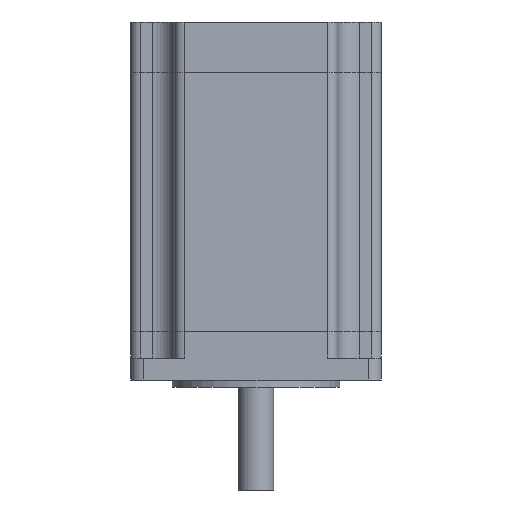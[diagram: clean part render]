
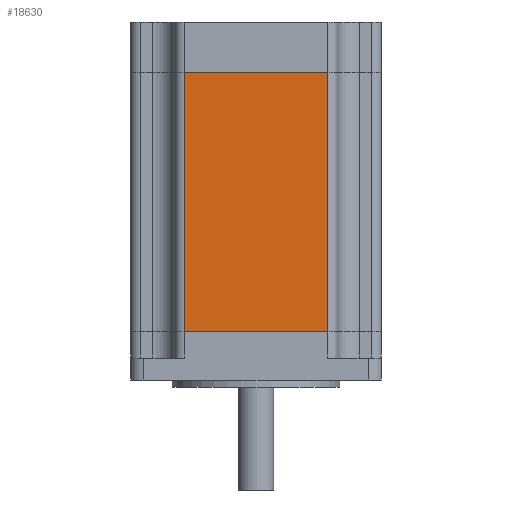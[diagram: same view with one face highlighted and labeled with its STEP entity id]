
A CAD part, front view. The second image highlights one B-rep face of the part: STEP entity #18630.
In plain terms, the highlighted planar face has unit normal (0, -1, 0) as drawn and (-1, 0, 0) by its records, which use the part's own axes.
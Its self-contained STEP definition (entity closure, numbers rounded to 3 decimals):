
#171 = VERTEX_POINT ( 'NONE', #13659 ) ;
#383 = CARTESIAN_POINT ( 'NONE',  ( -28.5, -16.27, 59. ) ) ;
#1127 = VECTOR ( 'NONE', #11758, 1000. ) ;
#1203 = CARTESIAN_POINT ( 'NONE',  ( -28.5, 0., 0. ) ) ;
#1245 = EDGE_CURVE ( 'NONE', #171, #18225, #7882, .T. ) ;
#1393 = EDGE_CURVE ( 'NONE', #15308, #18225, #18488, .T. ) ;
#1878 = PLANE ( 'NONE',  #15064 ) ;
#4386 = LINE ( 'NONE', #16117, #15865 ) ;
#4603 = ORIENTED_EDGE ( 'NONE', *, *, #4767, .F. ) ;
#4767 = EDGE_CURVE ( 'NONE', #18371, #171, #13033, .T. ) ;
#4882 = DIRECTION ( 'NONE',  ( 1., 0., 0. ) ) ;
#5252 = EDGE_CURVE ( 'NONE', #18371, #15308, #4386, .T. ) ;
#5423 = ORIENTED_EDGE ( 'NONE', *, *, #1245, .F. ) ;
#6481 = VECTOR ( 'NONE', #9480, 1000. ) ;
#7882 = LINE ( 'NONE', #383, #6481 ) ;
#8471 = ORIENTED_EDGE ( 'NONE', *, *, #1393, .T. ) ;
#9452 = CARTESIAN_POINT ( 'NONE',  ( -28.5, 16.27, 59. ) ) ;
#9480 = DIRECTION ( 'NONE',  ( 0., 0., -1. ) ) ;
#10284 = ORIENTED_EDGE ( 'NONE', *, *, #5252, .T. ) ;
#11758 = DIRECTION ( 'NONE',  ( 0., -1., 0. ) ) ;
#12221 = EDGE_LOOP ( 'NONE', ( #8471, #5423, #4603, #10284 ) ) ;
#13033 = LINE ( 'NONE', #14775, #1127 ) ;
#13659 = CARTESIAN_POINT ( 'NONE',  ( -28.5, -16.27, 59. ) ) ;
#13815 = CARTESIAN_POINT ( 'NONE',  ( -28.5, 0., 59. ) ) ;
#14482 = VECTOR ( 'NONE', #14780, 1000. ) ;
#14775 = CARTESIAN_POINT ( 'NONE',  ( -28.5, 0., 59. ) ) ;
#14780 = DIRECTION ( 'NONE',  ( 0., -1., 0. ) ) ;
#15064 = AXIS2_PLACEMENT_3D ( 'NONE', #13815, #4882, #15337 ) ;
#15308 = VERTEX_POINT ( 'NONE', #17682 ) ;
#15337 = DIRECTION ( 'NONE',  ( 0., 1., 0. ) ) ;
#15865 = VECTOR ( 'NONE', #17555, 1000. ) ;
#16117 = CARTESIAN_POINT ( 'NONE',  ( -28.5, 16.27, 59. ) ) ;
#16769 = CARTESIAN_POINT ( 'NONE',  ( -28.5, -16.27, 0. ) ) ;
#17555 = DIRECTION ( 'NONE',  ( 0., 0., -1. ) ) ;
#17682 = CARTESIAN_POINT ( 'NONE',  ( -28.5, 16.27, 0. ) ) ;
#18225 = VERTEX_POINT ( 'NONE', #16769 ) ;
#18371 = VERTEX_POINT ( 'NONE', #9452 ) ;
#18488 = LINE ( 'NONE', #1203, #14482 ) ;
#18630 = ADVANCED_FACE ( 'NONE', ( #19272 ), #1878, .F. ) ;
#19272 = FACE_OUTER_BOUND ( 'NONE', #12221, .T. ) ;
